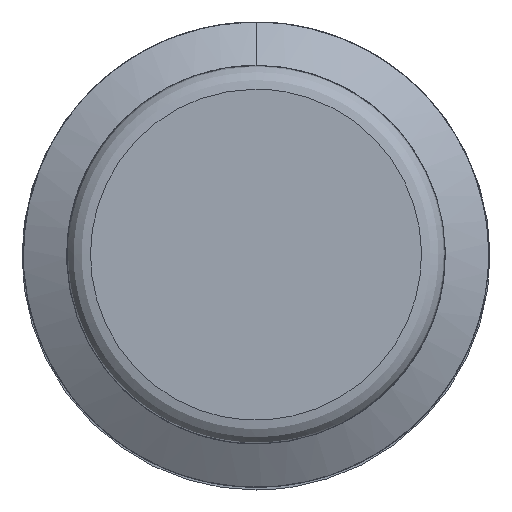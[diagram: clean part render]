
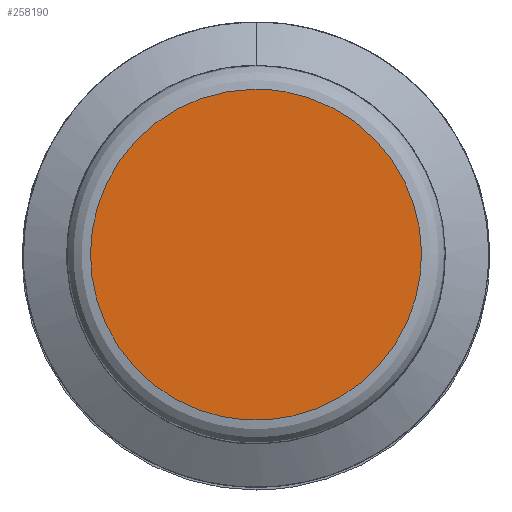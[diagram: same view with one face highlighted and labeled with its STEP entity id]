
A CAD part, front view. The second image highlights one B-rep face of the part: STEP entity #258190.
In plain terms, the highlighted free-form (B-spline) face has degree [1, 1] with [2, 2] control points.
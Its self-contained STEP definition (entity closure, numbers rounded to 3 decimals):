
#257580 = CARTESIAN_POINT ('', (3., 0., 5.169));
#257590 = VERTEX_POINT ('', #257580);
#257680 = CARTESIAN_POINT ('', (3., 0., 5.169));
#257690 = CARTESIAN_POINT ('', (0.866, 0., 5.169));
#257700 = CARTESIAN_POINT ('', (0.866, 0., 3.035));
#257710 = CARTESIAN_POINT ('', (0.866, 0., 0.901));
#257720 = CARTESIAN_POINT ('', (3., 0., 0.901));
#257730 = CARTESIAN_POINT ('', (5.134, 0., 0.901));
#257740 = CARTESIAN_POINT ('', (5.134, 0., 3.035));
#257750 = CARTESIAN_POINT ('', (5.134, 0., 5.169));
#257760 = CARTESIAN_POINT ('', (3., 0., 5.169));
#257770 = (
   BOUNDED_CURVE ()
   B_SPLINE_CURVE (2, (#257680, #257690, #257700, #257710, #257720, #257730, #257740, #257750, #257760), .UNSPECIFIED., .T., .U.)
   B_SPLINE_CURVE_WITH_KNOTS ((3, 2, 2, 2, 3), (0., 0.25, 0.5, 0.75, 1.), .UNSPECIFIED.)
   CURVE ()
   GEOMETRIC_REPRESENTATION_ITEM ()
   RATIONAL_B_SPLINE_CURVE ((1., 0.707, 1., 0.707, 1., 0.707, 1., 0.707, 1.))
   REPRESENTATION_ITEM ('')
);
#257780 = EDGE_CURVE ('', #257590, #257590, #257770, .T.);
#258110 = ORIENTED_EDGE ('', *, *, #257780, .T.);
#258120 = EDGE_LOOP ('', (#258110));
#258130 = FACE_OUTER_BOUND ('', #258120, .T.);
#258140 = CARTESIAN_POINT ('', (9.945, 0., 10.197));
#258150 = CARTESIAN_POINT ('', (9.945, 0., -4.302));
#258160 = CARTESIAN_POINT ('', (-4.554, 0., 10.197));
#258170 = CARTESIAN_POINT ('', (-4.554, 0., -4.302));
#258180 = B_SPLINE_SURFACE_WITH_KNOTS ('', 1, 1, ((#258140, #258150), (#258160, #258170)), .UNSPECIFIED., .F., .F., .U., (2, 2), (2, 2), (0., 1.), (0., 1.), .UNSPECIFIED.);
#258190 = ADVANCED_FACE ('', (#258130), #258180, .T.);
